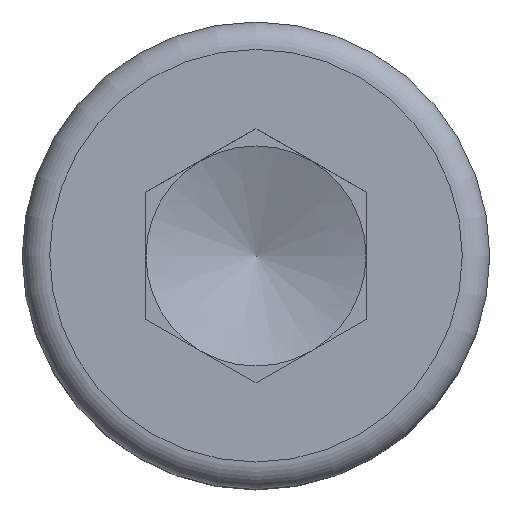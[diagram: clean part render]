
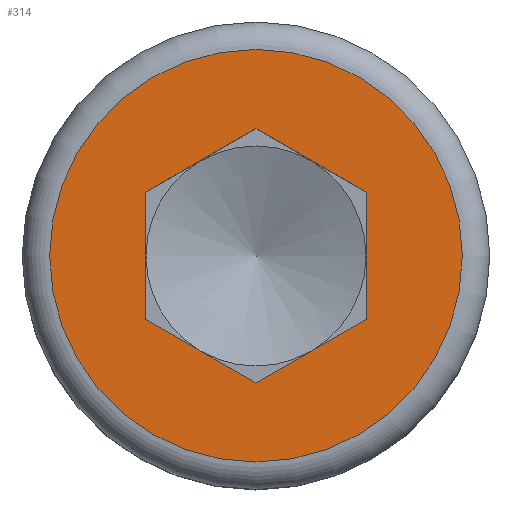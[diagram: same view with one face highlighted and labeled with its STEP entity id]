
A CAD part, top view. The second image highlights one B-rep face of the part: STEP entity #314.
In plain terms, the highlighted planar face has unit normal (0, 0, 1).
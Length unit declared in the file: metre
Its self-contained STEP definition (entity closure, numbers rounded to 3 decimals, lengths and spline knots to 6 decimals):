
#26=CIRCLE('',#356,0.00375);
#51=ORIENTED_EDGE('',*,*,#129,.T.);
#52=ORIENTED_EDGE('',*,*,#130,.T.);
#53=ORIENTED_EDGE('',*,*,#131,.T.);
#54=ORIENTED_EDGE('',*,*,#132,.T.);
#55=ORIENTED_EDGE('',*,*,#133,.T.);
#56=ORIENTED_EDGE('',*,*,#134,.T.);
#57=ORIENTED_EDGE('',*,*,#135,.T.);
#129=EDGE_CURVE('',#164,#164,#26,.T.);
#130=EDGE_CURVE('',#165,#166,#191,.T.);
#131=EDGE_CURVE('',#166,#167,#192,.T.);
#132=EDGE_CURVE('',#167,#168,#193,.T.);
#133=EDGE_CURVE('',#168,#169,#194,.T.);
#134=EDGE_CURVE('',#169,#170,#195,.T.);
#135=EDGE_CURVE('',#170,#165,#196,.T.);
#164=VERTEX_POINT('',#519);
#165=VERTEX_POINT('',#521);
#166=VERTEX_POINT('',#522);
#167=VERTEX_POINT('',#524);
#168=VERTEX_POINT('',#526);
#169=VERTEX_POINT('',#528);
#170=VERTEX_POINT('',#530);
#191=LINE('',#520,#215);
#192=LINE('',#523,#216);
#193=LINE('',#525,#217);
#194=LINE('',#527,#218);
#195=LINE('',#529,#219);
#196=LINE('',#531,#220);
#215=VECTOR('',#419,1.);
#216=VECTOR('',#420,1.);
#217=VECTOR('',#421,1.);
#218=VECTOR('',#422,1.);
#219=VECTOR('',#423,1.);
#220=VECTOR('',#424,1.);
#234=EDGE_LOOP('',(#51));
#235=EDGE_LOOP('',(#52,#53,#54,#55,#56,#57));
#266=FACE_BOUND('',#234,.T.);
#267=FACE_BOUND('',#235,.T.);
#299=PLANE('',#355);
#314=ADVANCED_FACE('',(#266,#267),#299,.F.);
#355=AXIS2_PLACEMENT_3D('',#517,#415,#416);
#356=AXIS2_PLACEMENT_3D('',#518,#417,#418);
#415=DIRECTION('',(0.,0.,-1.));
#416=DIRECTION('',(-1.,0.,0.));
#417=DIRECTION('',(0.,0.,1.));
#418=DIRECTION('',(1.,0.,0.));
#419=DIRECTION('',(0.,-1.,0.));
#420=DIRECTION('',(-0.866,-0.5,0.));
#421=DIRECTION('',(-0.866,0.5,0.));
#422=DIRECTION('',(0.,1.,0.));
#423=DIRECTION('',(0.866,0.5,0.));
#424=DIRECTION('',(0.866,-0.5,0.));
#517=CARTESIAN_POINT('',(-0.001102,0.,0.));
#518=CARTESIAN_POINT('',(0.,0.,0.));
#519=CARTESIAN_POINT('',(0.00375,0.,0.));
#520=CARTESIAN_POINT('',(0.002,0.,0.));
#521=CARTESIAN_POINT('',(0.002,0.001155,0.));
#522=CARTESIAN_POINT('',(0.002,-0.001155,0.));
#523=CARTESIAN_POINT('',(0.000971,-0.001749,0.));
#524=CARTESIAN_POINT('',(0.,-0.002309,0.));
#525=CARTESIAN_POINT('',(-0.001,-0.001732,0.));
#526=CARTESIAN_POINT('',(-0.002,-0.001155,0.));
#527=CARTESIAN_POINT('',(-0.002,0.,0.));
#528=CARTESIAN_POINT('',(-0.002,0.001155,0.));
#529=CARTESIAN_POINT('',(-0.000993,0.001736,0.));
#530=CARTESIAN_POINT('',(0.,0.002309,0.));
#531=CARTESIAN_POINT('',(0.001,0.001732,0.));
